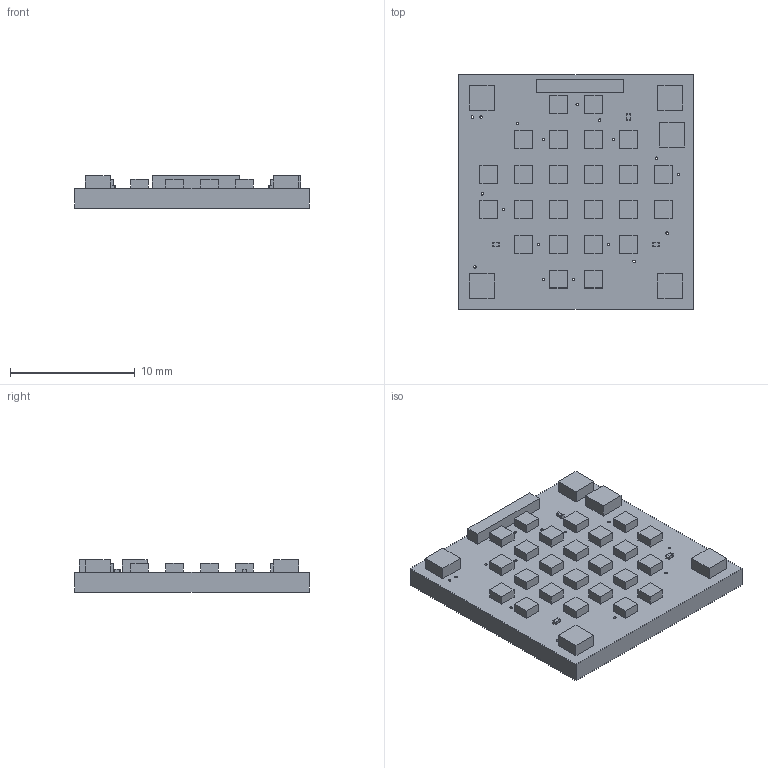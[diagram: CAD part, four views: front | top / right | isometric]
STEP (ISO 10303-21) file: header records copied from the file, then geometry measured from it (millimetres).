
FILE_DESCRIPTION((''),'2;1');
FILE_NAME('V19L19DC4_06072021_10-49-32_ASM','2021-06-07T',('SYSTEM'),(''),'PRO/ENGINEER BY PARAMETRIC TECHNOLOGY CORPORATION, 2009360','PRO/ENGINEER BY PARAMETRIC TECHNOLOGY CORPORATION, 2009360','');
FILE_SCHEMA(('AUTOMOTIVE_DESIGN_CC2 { 1 2 10303 214 -1 1 5 2 }'));
Products named in the file (7): V19L19DC4_06072021_10-49-32; FLIPCHIPWHITE10; RESC0603X26N; ARKALUMEN_LOGO_7MM; FIDUCIAL_R0_5MM; SOLDERPADS2_25; V19L19DC4_06072021_10-49-32_ASM
Assembly tree (34 placements, depth 2):
  V19L19DC4_06072021_10-49-32_ASM
    V19L19DC4_06072021_10-49-32
    FLIPCHIPWHITE10  x24
    RESC0603X26N  x3
    ARKALUMEN_LOGO_7MM
    FIDUCIAL_R0_5MM
    SOLDERPADS2_25  x4
Bounding box: 18.8 x 18.8 x 2.6 mm (x, y, z)
Volume: 625.2 mm3; surface area: 1146.2 mm2
Topology: 34 solids, 34 shells, 702 faces, 1668 edges, 1112 vertices
Faces by surface type: plane 666, cylinder 36
Entity records: 4139 total; most frequent: DIRECTION 603, CARTESIAN_POINT 556, ORIENTED_EDGE 498, EDGE_CURVE 249, AXIS2_PLACEMENT_3D 213, PRESENTATION_STYLE_ASSIGNMENT 188, STYLED_ITEM 188, VECTOR 177
